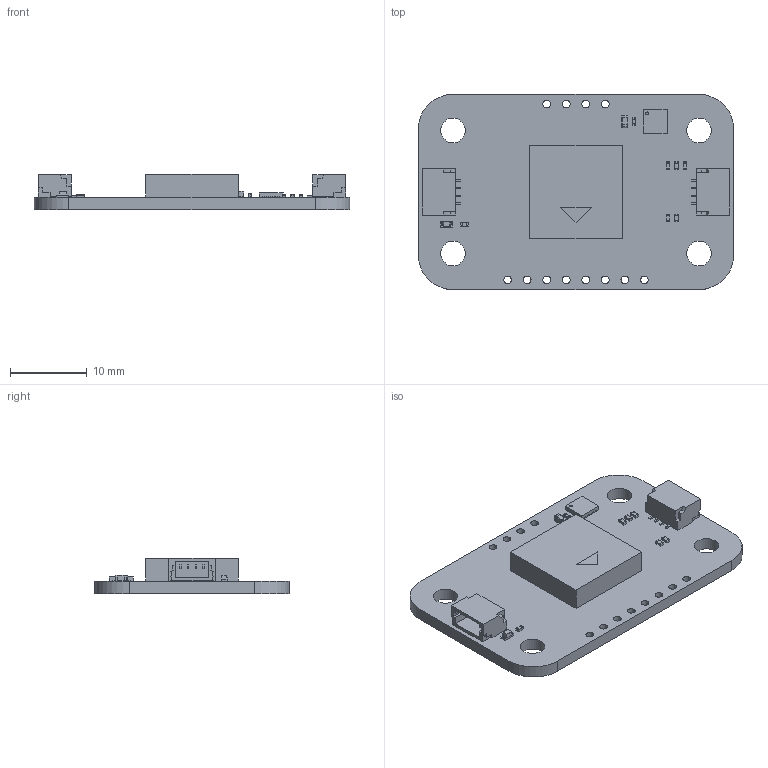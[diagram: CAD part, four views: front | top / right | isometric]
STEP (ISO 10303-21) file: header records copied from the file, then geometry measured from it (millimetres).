
FILE_DESCRIPTION(('Open CASCADE Model'),'2;1');
FILE_NAME('Open CASCADE Shape Model','2024-06-27T16:22:28',('Author'),( 'Open CASCADE'),'Open CASCADE STEP processor 7.5','Open CASCADE 7.5' ,'Unknown');
FILE_SCHEMA(('AUTOMOTIVE_DESIGN { 1 0 10303 214 1 1 1 1 }'));
Length unit declared in the file: millimetre
Products named in the file (31): PCB; Board; Open CASCADE STEP translator 7.5 14.1.1; C4; CAP-0603; C3; CAP-0402; R10; RES-0402; R8; R11; R9; R7; U1; 7552721664; Open CASCADE STEP translator 7.5 16.1; Body; Open CASCADE STEP translator 7.5 16.2.1; Pin Shape; Open CASCADE STEP translator 7.5 16.3.1; J1; SM04B-SRSS-TB_RGB12040119; J2; D1; HSMx-190; R1; BUZZER1; 7729154096; Extruded; 7729164016
Assembly tree (55 placements, depth 5):
  PCB
    Board
      Open CASCADE STEP translator 7.5 14.1.1
    C4
      CAP-0603
    C3
      CAP-0402
    R10
      RES-0402
    R8
      RES-0402
    R11
      RES-0402
    R9
      RES-0402
    R7
      RES-0402
    U1
      7552721664
        Open CASCADE STEP translator 7.5 16.1
        Body
          Open CASCADE STEP translator 7.5 16.2.1
        Pin Shape  x20
          Open CASCADE STEP translator 7.5 16.3.1
    J1
      SM04B-SRSS-TB_RGB12040119
    J2
      SM04B-SRSS-TB_RGB12040119
    D1
      HSMx-190
    R1
      RES-0402
    BUZZER1
      7729154096
        Extruded
      7729164016
        Extruded
Bounding box: 41 x 25.36 x 4.64 mm (x, y, z)
Volume: 2108.4 mm3; surface area: 3140.4 mm2
Topology: 35 solids, 36 shells, 908 faces, 2226 edges, 1381 vertices
Faces by surface type: plane 756, cylinder 112, sphere 20, bspline 16, torus 4
Full cylindrical faces by diameter (mm): 0.07 x1, 0.388 x1, 1 x12, 3.2 x4
Entity records: 12599 total; most frequent: CARTESIAN_POINT 2360, DIRECTION 1889, ORIENTED_EDGE 1799, EDGE_CURVE 900, LINE 673, VECTOR 673, AXIS2_PLACEMENT_3D 608, VERTEX_POINT 555
